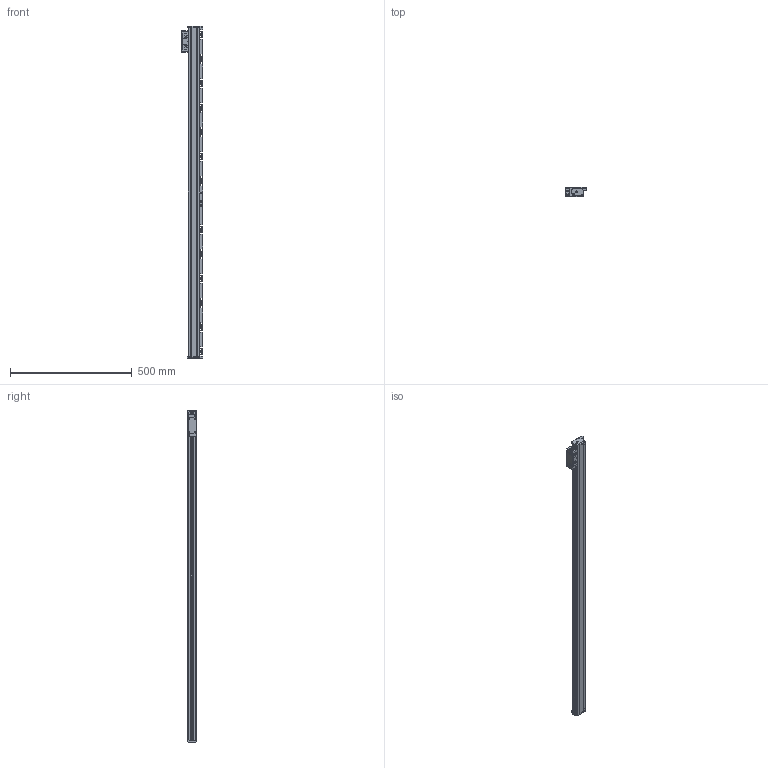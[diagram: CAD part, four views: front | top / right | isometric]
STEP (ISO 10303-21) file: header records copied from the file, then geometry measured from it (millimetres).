
FILE_DESCRIPTION(/* description */ (''),/* implementation_level */ '2;1');
FILE_NAME(/* name */ 'JC21A-1240-1.stp',/* time_stamp */ '2023-12-21T16:40:05+08:00',/* author */ (''),/* organization */ (''),/* preprocessor_version */ 'ST-DEVELOPER v14',/* originating_system */ 'SIEMENS PLM Software NX 8.0',/* authorisation */ '');
FILE_SCHEMA (('CONFIG_CONTROL_DESIGN'));
Length unit declared in the file: millimetre
Products named in the file (1): JC21A-1240-1
Bounding box: 87.5 x 37 x 1361 mm (x, y, z)
Volume: 2157058.7 mm3; surface area: 359397 mm2
Topology: 4 solids, 6 shells, 889 faces, 2618 edges, 1739 vertices
Faces by surface type: plane 554, cylinder 303, cone 22, bspline 8, extrusion 2
Full cylindrical faces by diameter (mm): 2.5 x12, 3.3 x6, 3.7 x4, 4.2 x4, 5 x2, 6 x6, 6.6 x2, 6.8 x16, 7 x2, 13.2 x2
Entity records: 30105 total; most frequent: CARTESIAN_POINT 6119, ORIENTED_EDGE 5016, DIRECTION 4956, EDGE_CURVE 2508, VERTEX_POINT 1707, AXIS2_PLACEMENT_3D 1653, VECTOR 1650, LINE 1648
